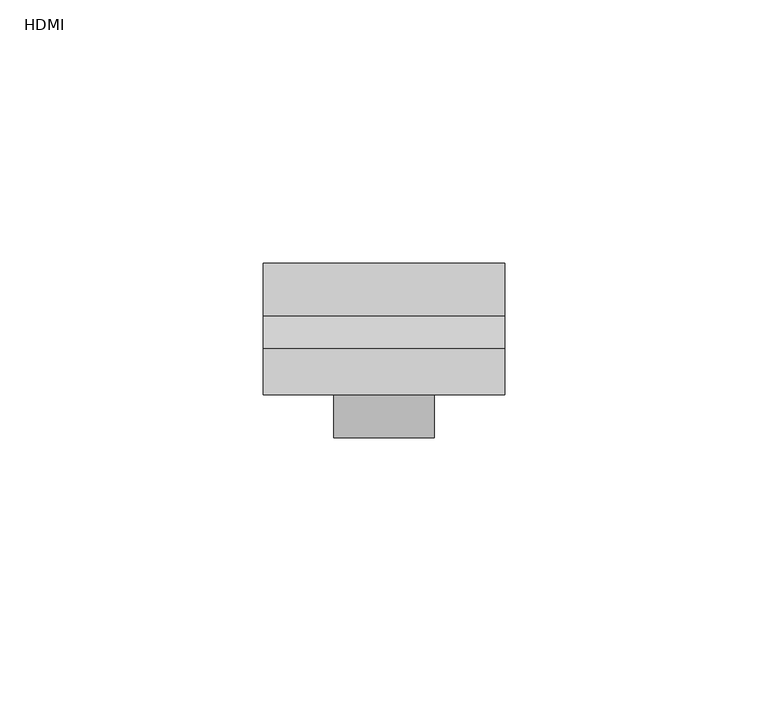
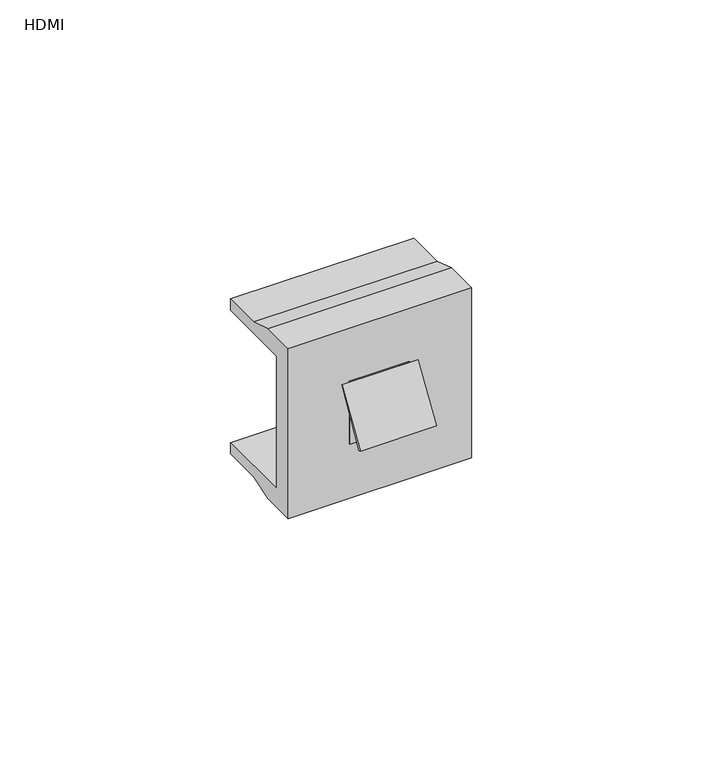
"""IFC4 building model written with IfcOpenShell, lengths in millimetres: proxy geometry, КНС_МультимедийныеРозеткиHDMIиUSB_DKC : HDMI."""

from ifc_helpers import new_model, si_unit, frame, origin, place, context, project, spatial, polyline, outline, extrude, faceted_brep, source, transform, mapped, element, save


def hdmi_63f187ea(model_context):
    return source(origin(), model_context, "Body", "SolidModel", [
        extrude(outline(polyline([(-32.5, -4.7403811), (-33.1818268, -4.3467281), (-25.0, 8.25), (-32.5, -4.7403811)])), frame((-9.523089, 0.0, 0.0), z_axis=(1.0, 0.0, 0.0), x_axis=(0.0, 1.0, 0.0)), (0.0, 0.0, 1.0), 19.046178),
        faceted_brep([(7.5, -25.0, 8.25), (-7.5, -25.0, 8.25), (-7.5, -25.0, -8.25), (7.5, -25.0, -8.25), (-1.5914527, -25.0, 6.436967), (0.5241099, -25.0, 6.436967), (1.7681536, -25.0, 5.1929232), (1.7681536, -25.0, -5.1929232), (0.5241099, -25.0, -6.436967), (-1.5914527, -25.0, -6.436967), (7.5, -16.2913439, 8.25), (7.5, -16.2913439, -8.25), (-7.5, -16.2913439, -8.25), (-7.5, -16.2913439, 8.25), (0.5241099, -20.0, 6.436967), (-1.5914527, -20.0, 6.436967), (-1.5914527, -20.0, -6.436967), (0.5241099, -20.0, -6.436967), (1.7681536, -20.0, -5.1929232), (1.7681536, -20.0, 5.1929232)], [[[0, 1, 2, 3], [4, 5, 6, 7, 8, 9]], [[10, 11, 12, 13]], [[1, 0, 10, 13]], [[2, 1, 13, 12]], [[3, 2, 12, 11]], [[0, 3, 11, 10]], [[14, 15, 16, 17, 18, 19]], [[15, 14, 5, 4]], [[16, 15, 4, 9]], [[17, 16, 9, 8]], [[18, 17, 8, 7]], [[19, 18, 7, 6]], [[14, 19, 6, 5]]]),
        faceted_brep([(23.0, -25.0, 22.5), (-23.0, -25.0, 22.5), (-23.0, -25.0, -22.5), (23.0, -25.0, -22.5), (7.5, -25.0, 8.25), (7.5, -25.0, -8.25), (-7.5, -25.0, -8.25), (-7.5, -25.0, 8.25), (23.0, 0.0, 20.5), (23.0, 0.0, 17.5), (-23.0, 0.0, 17.5), (-23.0, 0.0, 20.5), (23.0, 0.0, -17.5), (23.0, 0.0, -20.5), (-23.0, 0.0, -20.5), (-23.0, 0.0, -17.5), (23.0, -16.2913439, 22.5), (-23.0, -16.2913439, 22.5), (-23.0, -10.0, 20.5), (-23.0, -20.0, 17.5), (-23.0, -20.0, -17.5), (-23.0, -10.0, -20.5), (-23.0, -16.2913439, -22.5), (23.0, -16.2913439, -22.5), (23.0, -10.0, -20.5), (23.0, -20.0, -17.5), (23.0, -20.0, 17.5), (23.0, -10.0, 20.5), (7.5, -20.0, 8.25), (7.5, -20.0, -8.25), (-7.5, -20.0, -8.25), (-7.5, -20.0, 8.25)], [[[0, 1, 2, 3], [4, 5, 6, 7]], [[8, 9, 10, 11]], [[12, 13, 14, 15]], [[1, 0, 16, 17]], [[2, 1, 17, 18, 11, 10, 19, 20, 15, 14, 21, 22]], [[3, 2, 22, 23]], [[0, 3, 23, 24, 13, 12, 25, 26, 9, 8, 27, 16]], [[5, 4, 28, 29]], [[6, 5, 29, 30]], [[7, 6, 30, 31]], [[4, 7, 31, 28]], [[20, 25, 12, 15]], [[26, 19, 10, 9]], [[25, 20, 19, 26], [29, 28, 31, 30]], [[18, 27, 8, 11]], [[27, 18, 17, 16]], [[24, 21, 14, 13]], [[21, 24, 23, 22]]]),
    ])


if __name__ == "__main__":
    model = new_model("IFC4")
    model_context = context("Model", 3, world=origin())
    ifc_project = project(units=[si_unit("LENGTHUNIT", "METRE", prefix="MILLI")], contexts=[model_context])
    site = spatial("IfcSite", under=ifc_project)
    building = spatial("IfcBuilding", under=site)
    placement = place(None, origin())
    hdmi_shape = hdmi_63f187ea(model_context)
    element("IfcBuildingElementProxy", 1, Name="КНС_МультимедийныеРозеткиHDMIиUSB_DKC : HDMI", ObjectType="КНС_МультимедийныеРозеткиHDMIиUSB_DKC : HDMI", at=placement, inside=building, context=model_context, shape_type="MappedRepresentation", body=[
        mapped(hdmi_shape, transform((0.0, 0.0, 0.0), x_axis=(1.0, 0.0, 0.0), y_axis=(0.0, 1.0, 0.0), z_axis=(0.0, 0.0, 1.0))),
    ])
    save(model, "model.ifc")
